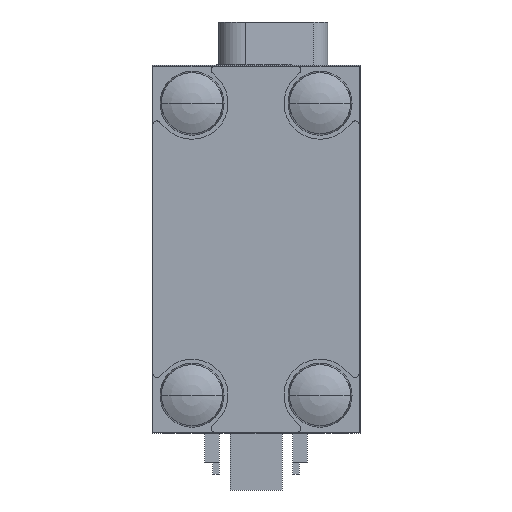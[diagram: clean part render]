
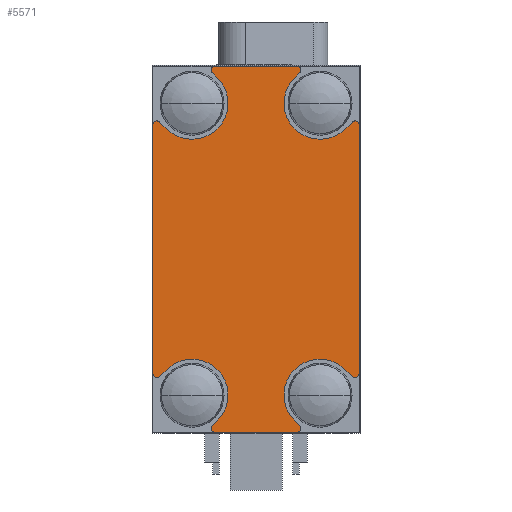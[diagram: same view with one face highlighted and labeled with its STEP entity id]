
A CAD part, front view. The second image highlights one B-rep face of the part: STEP entity #5571.
In plain terms, the highlighted planar face has unit normal (0, -1, 0).
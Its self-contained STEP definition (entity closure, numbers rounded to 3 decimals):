
#2052=DIRECTION('',(0.725,0.,-0.688));
#2053=VECTOR('',#2052,0.76);
#2054=CARTESIAN_POINT('',(4.902,-34.,-44.514));
#2055=LINE('',#2054,#2053);
#2056=CARTESIAN_POINT('',(5.109,-34.,-45.4));
#2057=DIRECTION('',(0.,-1.,0.));
#2058=DIRECTION('',(0.,0.,-1.));
#2059=AXIS2_PLACEMENT_3D('',#2056,#2057,#2058);
#2061=DIRECTION('',(1.,0.,0.));
#2062=VECTOR('',#2061,10.219);
#2063=CARTESIAN_POINT('',(-5.109,-34.,-45.9));
#2064=LINE('',#2063,#2062);
#2065=CARTESIAN_POINT('',(-5.109,-34.,-45.4));
#2066=DIRECTION('',(0.,-1.,0.));
#2067=DIRECTION('',(-0.688,0.,0.725));
#2068=AXIS2_PLACEMENT_3D('',#2065,#2066,#2067);
#2070=DIRECTION('',(0.725,0.,0.688));
#2071=VECTOR('',#2070,0.76);
#2072=CARTESIAN_POINT('',(-5.454,-34.,-45.037));
#2073=LINE('',#2072,#2071);
#2074=CARTESIAN_POINT('',(-8.,-34.,-41.25));
#2075=DIRECTION('',(0.,-1.,0.));
#2076=DIRECTION('',(0.688,0.,-0.725));
#2077=AXIS2_PLACEMENT_3D('',#2074,#2075,#2076);
#2079=DIRECTION('',(-0.725,0.,-0.688));
#2080=VECTOR('',#2079,1.321);
#2081=CARTESIAN_POINT('',(-11.098,-34.,-37.986));
#2082=LINE('',#2081,#2080);
#2083=CARTESIAN_POINT('',(-12.4,-34.,-38.532));
#2084=DIRECTION('',(0.,-1.,0.));
#2085=DIRECTION('',(-1.,0.,0.));
#2086=AXIS2_PLACEMENT_3D('',#2083,#2084,#2085);
#2088=DIRECTION('',(0.,0.,-1.));
#2089=VECTOR('',#2088,31.065);
#2090=CARTESIAN_POINT('',(-12.9,-34.,-7.468));
#2091=LINE('',#2090,#2089);
#2092=CARTESIAN_POINT('',(-12.4,-34.,-7.468));
#2093=DIRECTION('',(0.,-1.,0.));
#2094=DIRECTION('',(0.688,0.,0.725));
#2095=AXIS2_PLACEMENT_3D('',#2092,#2093,#2094);
#2097=DIRECTION('',(0.725,0.,-0.688));
#2098=VECTOR('',#2097,1.321);
#2099=CARTESIAN_POINT('',(-12.056,-34.,-7.105));
#2100=LINE('',#2099,#2098);
#2101=CARTESIAN_POINT('',(-8.,-34.,-4.75));
#2102=DIRECTION('',(0.,-1.,0.));
#2103=DIRECTION('',(-0.688,0.,-0.725));
#2104=AXIS2_PLACEMENT_3D('',#2101,#2102,#2103);
#2106=DIRECTION('',(-0.725,0.,0.688));
#2107=VECTOR('',#2106,0.76);
#2108=CARTESIAN_POINT('',(-4.902,-34.,-1.486));
#2109=LINE('',#2108,#2107);
#2110=CARTESIAN_POINT('',(-5.109,-34.,-0.6));
#2111=DIRECTION('',(0.,-1.,0.));
#2112=DIRECTION('',(0.,0.,1.));
#2113=AXIS2_PLACEMENT_3D('',#2110,#2111,#2112);
#2115=DIRECTION('',(-1.,0.,0.));
#2116=VECTOR('',#2115,10.219);
#2117=CARTESIAN_POINT('',(5.109,-34.,-0.1));
#2118=LINE('',#2117,#2116);
#2119=CARTESIAN_POINT('',(5.109,-34.,-0.6));
#2120=DIRECTION('',(0.,-1.,0.));
#2121=DIRECTION('',(0.688,0.,-0.725));
#2122=AXIS2_PLACEMENT_3D('',#2119,#2120,#2121);
#2124=DIRECTION('',(-0.725,0.,-0.688));
#2125=VECTOR('',#2124,0.76);
#2126=CARTESIAN_POINT('',(5.454,-34.,-0.963));
#2127=LINE('',#2126,#2125);
#2128=CARTESIAN_POINT('',(8.,-34.,-4.75));
#2129=DIRECTION('',(0.,-1.,0.));
#2130=DIRECTION('',(-0.688,0.,0.725));
#2131=AXIS2_PLACEMENT_3D('',#2128,#2129,#2130);
#2133=DIRECTION('',(0.725,0.,0.688));
#2134=VECTOR('',#2133,1.321);
#2135=CARTESIAN_POINT('',(11.098,-34.,-8.014));
#2136=LINE('',#2135,#2134);
#2137=CARTESIAN_POINT('',(12.4,-34.,-7.468));
#2138=DIRECTION('',(0.,-1.,0.));
#2139=DIRECTION('',(1.,0.,0.));
#2140=AXIS2_PLACEMENT_3D('',#2137,#2138,#2139);
#2142=DIRECTION('',(0.,0.,1.));
#2143=VECTOR('',#2142,31.065);
#2144=CARTESIAN_POINT('',(12.9,-34.,-38.532));
#2145=LINE('',#2144,#2143);
#2146=CARTESIAN_POINT('',(12.4,-34.,-38.532));
#2147=DIRECTION('',(0.,-1.,0.));
#2148=DIRECTION('',(-0.688,0.,-0.725));
#2149=AXIS2_PLACEMENT_3D('',#2146,#2147,#2148);
#2151=DIRECTION('',(-0.725,0.,0.688));
#2152=VECTOR('',#2151,1.321);
#2153=CARTESIAN_POINT('',(12.056,-34.,-38.895));
#2154=LINE('',#2153,#2152);
#2155=CARTESIAN_POINT('',(8.,-34.,-41.25));
#2156=DIRECTION('',(0.,-1.,0.));
#2157=DIRECTION('',(0.688,0.,0.725));
#2158=AXIS2_PLACEMENT_3D('',#2155,#2156,#2157);
#2770=CARTESIAN_POINT('',(4.902,-34.,-44.514));
#2771=CARTESIAN_POINT('',(5.454,-34.,-45.037));
#2772=VERTEX_POINT('',#2770);
#2773=VERTEX_POINT('',#2771);
#2774=CARTESIAN_POINT('',(5.109,-34.,-45.9));
#2775=VERTEX_POINT('',#2774);
#2776=CARTESIAN_POINT('',(12.056,-34.,-38.895));
#2777=CARTESIAN_POINT('',(12.9,-34.,-38.532));
#2778=VERTEX_POINT('',#2776);
#2779=VERTEX_POINT('',#2777);
#2780=CARTESIAN_POINT('',(11.098,-34.,-37.986));
#2781=VERTEX_POINT('',#2780);
#2782=CARTESIAN_POINT('',(4.902,-34.,-1.486));
#2783=CARTESIAN_POINT('',(11.098,-34.,-8.014));
#2784=VERTEX_POINT('',#2782);
#2785=VERTEX_POINT('',#2783);
#2786=CARTESIAN_POINT('',(12.056,-34.,-7.105));
#2787=VERTEX_POINT('',#2786);
#2788=CARTESIAN_POINT('',(12.9,-34.,-7.468));
#2789=VERTEX_POINT('',#2788);
#2790=CARTESIAN_POINT('',(5.454,-34.,-0.963));
#2791=CARTESIAN_POINT('',(5.109,-34.,-0.1));
#2792=VERTEX_POINT('',#2790);
#2793=VERTEX_POINT('',#2791);
#2794=CARTESIAN_POINT('',(-4.902,-34.,-44.514));
#2795=CARTESIAN_POINT('',(-11.098,-34.,-37.986));
#2796=VERTEX_POINT('',#2794);
#2797=VERTEX_POINT('',#2795);
#2798=CARTESIAN_POINT('',(-12.056,-34.,-38.895));
#2799=VERTEX_POINT('',#2798);
#2800=CARTESIAN_POINT('',(-12.9,-34.,-38.532));
#2801=VERTEX_POINT('',#2800);
#2802=CARTESIAN_POINT('',(-5.454,-34.,-45.037));
#2803=CARTESIAN_POINT('',(-5.109,-34.,-45.9));
#2804=VERTEX_POINT('',#2802);
#2805=VERTEX_POINT('',#2803);
#2806=CARTESIAN_POINT('',(-4.902,-34.,-1.486));
#2807=CARTESIAN_POINT('',(-5.454,-34.,-0.963));
#2808=VERTEX_POINT('',#2806);
#2809=VERTEX_POINT('',#2807);
#2810=CARTESIAN_POINT('',(-5.109,-34.,-0.1));
#2811=VERTEX_POINT('',#2810);
#2812=CARTESIAN_POINT('',(-12.056,-34.,-7.105));
#2813=CARTESIAN_POINT('',(-12.9,-34.,-7.468));
#2814=VERTEX_POINT('',#2812);
#2815=VERTEX_POINT('',#2813);
#2816=CARTESIAN_POINT('',(-11.098,-34.,-8.014));
#2817=VERTEX_POINT('',#2816);
#5519=CARTESIAN_POINT('',(0.,-34.,0.));
#5520=DIRECTION('',(0.,-1.,0.));
#5521=DIRECTION('',(1.,0.,0.));
#5522=AXIS2_PLACEMENT_3D('',#5519,#5520,#5521);
#5523=PLANE('',#5522);
#5525=ORIENTED_EDGE('',*,*,#5524,.T.);
#5527=ORIENTED_EDGE('',*,*,#5526,.F.);
#5528=ORIENTED_EDGE('',*,*,#5361,.F.);
#5530=ORIENTED_EDGE('',*,*,#5529,.F.);
#5532=ORIENTED_EDGE('',*,*,#5531,.T.);
#5534=ORIENTED_EDGE('',*,*,#5533,.T.);
#5536=ORIENTED_EDGE('',*,*,#5535,.T.);
#5538=ORIENTED_EDGE('',*,*,#5537,.F.);
#5539=ORIENTED_EDGE('',*,*,#5493,.F.);
#5540=ORIENTED_EDGE('',*,*,#5510,.F.);
#5542=ORIENTED_EDGE('',*,*,#5541,.T.);
#5544=ORIENTED_EDGE('',*,*,#5543,.T.);
#5546=ORIENTED_EDGE('',*,*,#5545,.T.);
#5548=ORIENTED_EDGE('',*,*,#5547,.F.);
#5550=ORIENTED_EDGE('',*,*,#5549,.F.);
#5552=ORIENTED_EDGE('',*,*,#5551,.F.);
#5554=ORIENTED_EDGE('',*,*,#5553,.T.);
#5556=ORIENTED_EDGE('',*,*,#5555,.T.);
#5558=ORIENTED_EDGE('',*,*,#5557,.T.);
#5560=ORIENTED_EDGE('',*,*,#5559,.F.);
#5562=ORIENTED_EDGE('',*,*,#5561,.F.);
#5564=ORIENTED_EDGE('',*,*,#5563,.F.);
#5566=ORIENTED_EDGE('',*,*,#5565,.T.);
#5568=ORIENTED_EDGE('',*,*,#5567,.T.);
#5569=EDGE_LOOP('',(#5525,#5527,#5528,#5530,#5532,#5534,#5536,#5538,#5539,#5540,
#5542,#5544,#5546,#5548,#5550,#5552,#5554,#5556,#5558,#5560,#5562,#5564,#5566,
#5568));
#5570=FACE_OUTER_BOUND('',#5569,.F.);
#5571=ADVANCED_FACE('',(#5570),#5523,.T.);
#2060=CIRCLE('',#2059,0.5);
#2069=CIRCLE('',#2068,0.5);
#2078=CIRCLE('',#2077,4.5);
#2087=CIRCLE('',#2086,0.5);
#2096=CIRCLE('',#2095,0.5);
#2105=CIRCLE('',#2104,4.5);
#2114=CIRCLE('',#2113,0.5);
#2123=CIRCLE('',#2122,0.5);
#2132=CIRCLE('',#2131,4.5);
#2141=CIRCLE('',#2140,0.5);
#2150=CIRCLE('',#2149,0.5);
#2159=CIRCLE('',#2158,4.5);
#5361=EDGE_CURVE('',#2805,#2775,#2064,.T.);
#5493=EDGE_CURVE('',#2815,#2801,#2091,.T.);
#5510=EDGE_CURVE('',#2814,#2815,#2096,.T.);
#5524=EDGE_CURVE('',#2772,#2773,#2055,.T.);
#5526=EDGE_CURVE('',#2775,#2773,#2060,.T.);
#5529=EDGE_CURVE('',#2804,#2805,#2069,.T.);
#5531=EDGE_CURVE('',#2804,#2796,#2073,.T.);
#5533=EDGE_CURVE('',#2796,#2797,#2078,.T.);
#5535=EDGE_CURVE('',#2797,#2799,#2082,.T.);
#5537=EDGE_CURVE('',#2801,#2799,#2087,.T.);
#5541=EDGE_CURVE('',#2814,#2817,#2100,.T.);
#5543=EDGE_CURVE('',#2817,#2808,#2105,.T.);
#5545=EDGE_CURVE('',#2808,#2809,#2109,.T.);
#5547=EDGE_CURVE('',#2811,#2809,#2114,.T.);
#5549=EDGE_CURVE('',#2793,#2811,#2118,.T.);
#5551=EDGE_CURVE('',#2792,#2793,#2123,.T.);
#5553=EDGE_CURVE('',#2792,#2784,#2127,.T.);
#5555=EDGE_CURVE('',#2784,#2785,#2132,.T.);
#5557=EDGE_CURVE('',#2785,#2787,#2136,.T.);
#5559=EDGE_CURVE('',#2789,#2787,#2141,.T.);
#5561=EDGE_CURVE('',#2779,#2789,#2145,.T.);
#5563=EDGE_CURVE('',#2778,#2779,#2150,.T.);
#5565=EDGE_CURVE('',#2778,#2781,#2154,.T.);
#5567=EDGE_CURVE('',#2781,#2772,#2159,.T.);
